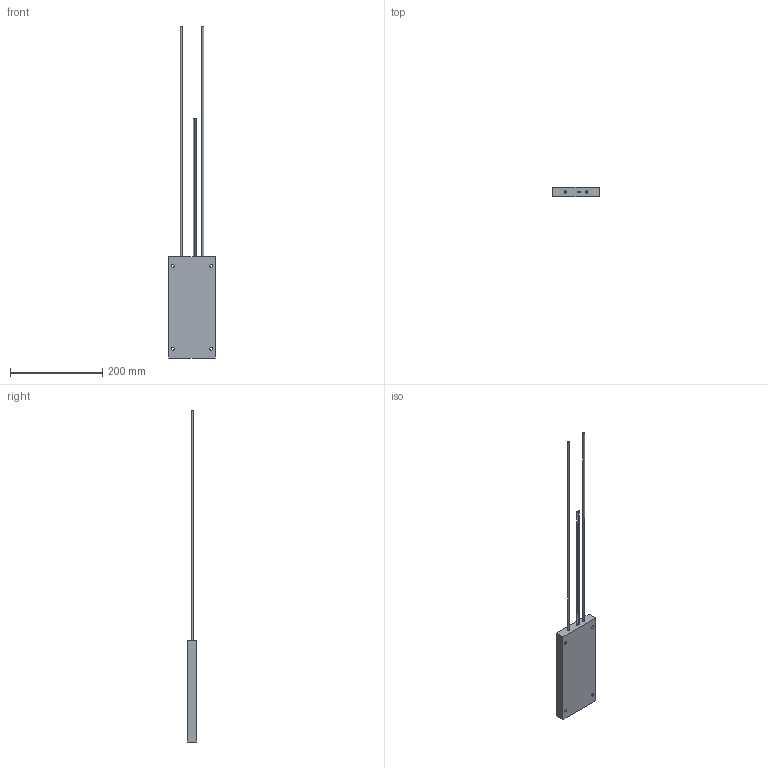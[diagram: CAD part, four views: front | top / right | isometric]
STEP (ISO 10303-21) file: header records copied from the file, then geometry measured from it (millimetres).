
FILE_DESCRIPTION(/* description */ (''),/* implementation_level */ '2;1');
FILE_NAME(/* name */ 'C:\_Vault\Dati\CATALOGO\RFD\RFDT550.stp',/* time_stamp */ '2014-03-24T17:10:04+01:00',/* author */ ('stefano'),/* organization */ (''),/* preprocessor_version */ 'ST-DEVELOPER v15.2',/* originating_system */ 'Autodesk Inventor 2014',/* authorisation */ '');
FILE_SCHEMA (('AUTOMOTIVE_DESIGN { 1 0 10303 214 3 1 1 }'));
Length unit declared in the file: millimetre
Products named in the file (1): RFDT550
Bounding box: 100 x 20 x 720.1 mm (x, y, z)
Volume: 453018.8 mm3; surface area: 75414.9 mm2
Topology: 1 solids, 1 shells, 26 faces, 52 edges, 36 vertices
Faces by surface type: plane 14, cylinder 12
Full cylindrical faces by diameter (mm): 1.5 x2, 2 x2, 2.5 x2, 4 x2, 6.3 x4
Entity records: 708 total; most frequent: DIRECTION 114, CARTESIAN_POINT 95, ORIENTED_EDGE 72, EDGE_LOOP 54, AXIS2_PLACEMENT_3D 51, EDGE_CURVE 36, FACE_BOUND 35, VERTEX_POINT 32
